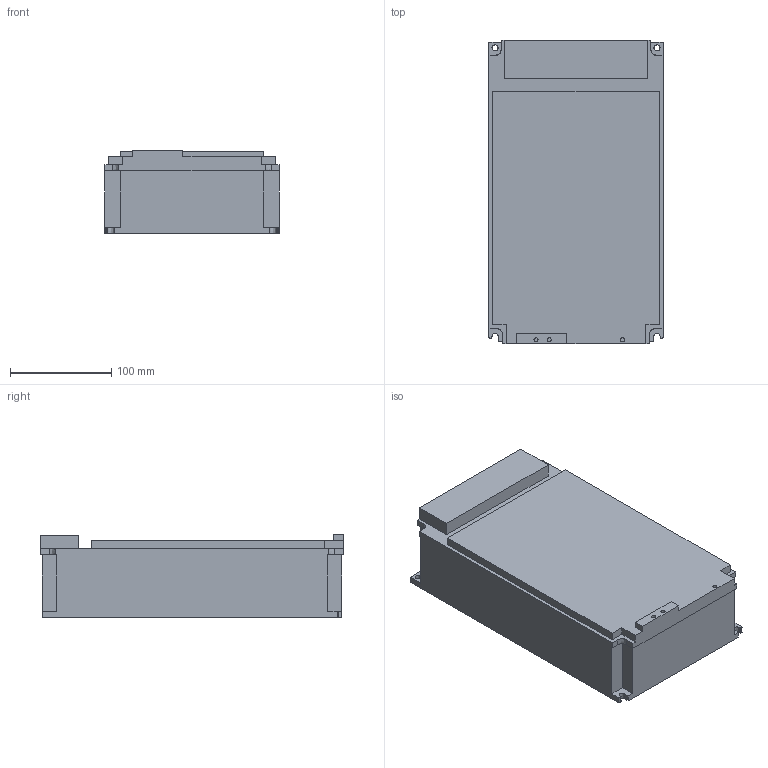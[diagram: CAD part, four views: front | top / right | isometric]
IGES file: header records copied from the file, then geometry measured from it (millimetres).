
Start section:  PTC IGES file: j4-700-chassis.igs
Global section: file name: j4-700-chassis.igs; native system: Pro/ENGINEER by Parametric Technology Corporation; preprocessor: 2010160; author: CV86875; organization: Unknown; date: 20121031.194042; units: millimetre
Bounding box: 172 x 300 x 82 mm (x, y, z)
Volume: 3491039.3 mm3; surface area: 192843.2 mm2
Topology: 1 solids, 1 shells, 81 faces, 228 edges, 152 vertices
Faces by surface type: bspline 81
